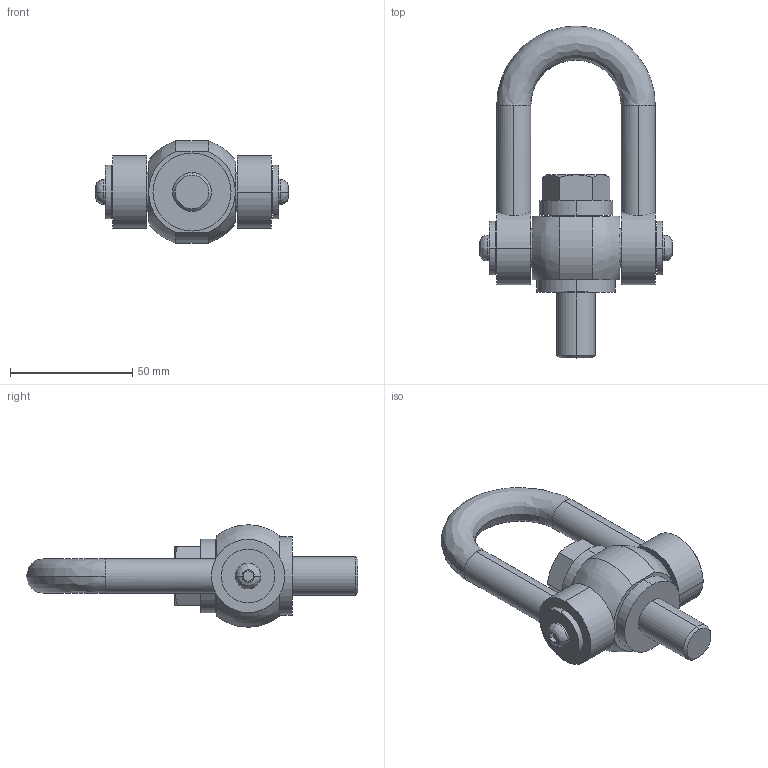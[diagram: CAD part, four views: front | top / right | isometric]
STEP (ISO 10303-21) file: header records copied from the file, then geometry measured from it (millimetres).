
FILE_DESCRIPTION (( 'STEP AP203' ), '1' );
FILE_NAME ('EB-903-16.STEP', '2013-06-25T07:41:35', ( 'SDS' ), ( 'SDS' ), 'SwSTEP 2.0', 'SolidWorks 2002296', '' );
FILE_SCHEMA (( 'CONFIG_CONTROL_DESIGN' ));
Length unit declared in the file: millimetre
Products named in the file (5): EB-903-16; EB-903-161_蹬怮椔; EB-903-162_蹬怮椔; EB-903-163_蹬怮椔; EB-903-164_蹬怮椔
Assembly tree (4 placements, depth 2):
  EB-903-16
    EB-903-162_蹬怮椔
    EB-903-163_蹬怮椔
    EB-903-164_蹬怮椔
    EB-903-161_蹬怮椔
Bounding box: 79 x 136 x 42 mm (x, y, z)
Volume: 99869.2 mm3; surface area: 34063.2 mm2
Topology: 4 solids, 4 shells, 97 faces, 220 edges, 144 vertices
Faces by surface type: plane 41, cylinder 40, bspline 8, cone 8
Entity records: 3783 total; most frequent: CARTESIAN_POINT 1052, DIRECTION 486, ORIENTED_EDGE 440, EDGE_CURVE 220, AXIS2_PLACEMENT_3D 198, VERTEX_POINT 144, EDGE_LOOP 118, CIRCLE 102
